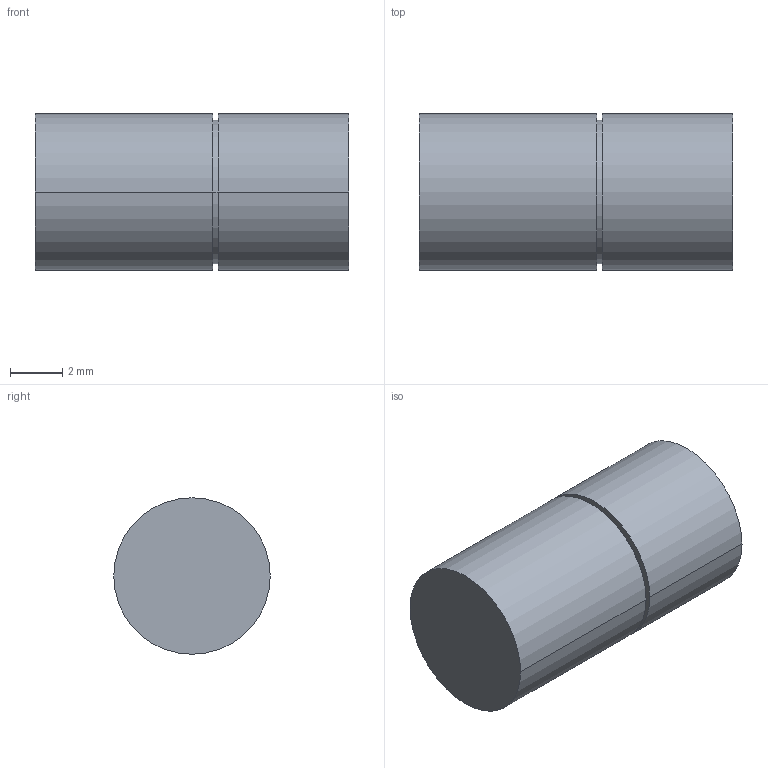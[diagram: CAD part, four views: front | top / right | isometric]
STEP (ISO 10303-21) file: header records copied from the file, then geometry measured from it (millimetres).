
FILE_DESCRIPTION((''),'2;1');
FILE_NAME('S601-02','2006-08-11T',('PAw'),(''),'PRO/ENGINEER BY PARAMETRIC TECHNOLOGY CORPORATION, 2004320','PRO/ENGINEER BY PARAMETRIC TECHNOLOGY CORPORATION, 2004320','');
FILE_SCHEMA(('CONFIG_CONTROL_DESIGN'));
Length unit declared in the file: millimetre
Products named in the file (1): S601-02
Bounding box: 12 x 6 x 6 mm (x, y, z)
Volume: 338.4 mm3; surface area: 291.5 mm2
Topology: 1 solids, 1 shells, 10 faces, 18 edges, 12 vertices
Faces by surface type: cylinder 6, plane 4
Entity records: 292 total; most frequent: DIRECTION 50, CARTESIAN_POINT 40, ORIENTED_EDGE 36, AXIS2_PLACEMENT_3D 22, EDGE_CURVE 18, VERTEX_POINT 12, EDGE_LOOP 12, CIRCLE 12
